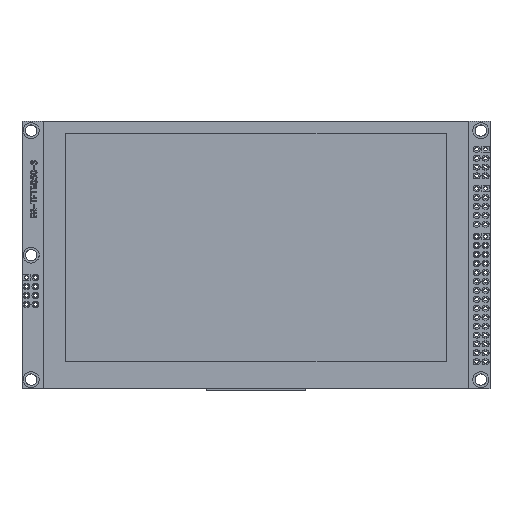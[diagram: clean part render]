
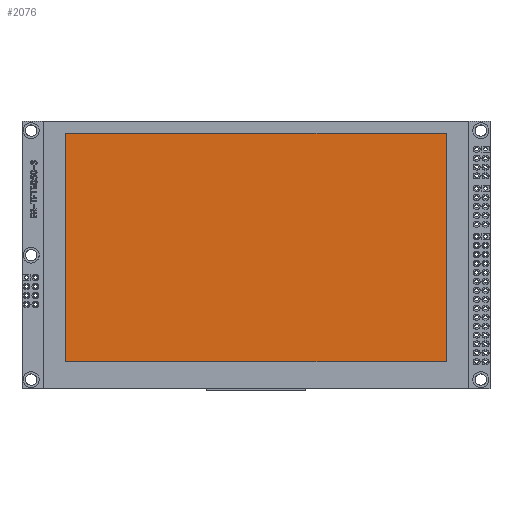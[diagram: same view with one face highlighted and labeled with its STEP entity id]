
A CAD part, top view. The second image highlights one B-rep face of the part: STEP entity #2076.
In plain terms, the highlighted free-form (B-spline) face has degree [1, 1] with [2, 2] control points.
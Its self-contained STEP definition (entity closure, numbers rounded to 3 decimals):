
#157=(GEOMETRIC_REPRESENTATION_CONTEXT(2)PARAMETRIC_REPRESENTATION_CONTEXT()REPRESENTATION_CONTEXT('',''));
#1816=CARTESIAN_POINT('',(12.31,72.425,4.));
#1817=CARTESIAN_POINT('',(120.31,72.425,4.));
#1818=CARTESIAN_POINT('',(12.31,72.425,0.8));
#1819=CARTESIAN_POINT('',(120.31,72.425,0.8));
#1820=B_SPLINE_SURFACE_WITH_KNOTS('',1,1,((#1816,#1817),(#1818,#1819)),.UNSPECIFIED.,.F.,.F.,.U.,(2,2),(2,2),(0.,0.003),(0.012,0.12),.UNSPECIFIED.);
#1846=CARTESIAN_POINT('',(12.31,72.425,4.));
#1847=VERTEX_POINT('',#1846);
#1848=CARTESIAN_POINT('',(12.31,7.625,4.));
#1849=CARTESIAN_POINT('',(12.31,72.425,4.));
#1850=CARTESIAN_POINT('',(12.31,7.625,0.8));
#1851=CARTESIAN_POINT('',(12.31,72.425,0.8));
#1852=B_SPLINE_SURFACE_WITH_KNOTS('',1,1,((#1848,#1849),(#1850,#1851)),.UNSPECIFIED.,.F.,.F.,.U.,(2,2),(2,2),(0.,0.003),(0.008,0.072),.UNSPECIFIED.);
#1869=CARTESIAN_POINT('',(120.31,72.425,4.));
#1870=VERTEX_POINT('',#1869);
#1871=CARTESIAN_POINT('',(12.31,7.625,4.));
#1872=CARTESIAN_POINT('',(12.31,72.425,4.));
#1873=CARTESIAN_POINT('',(120.31,7.625,4.));
#1874=CARTESIAN_POINT('',(120.31,72.425,4.));
#1875=B_SPLINE_SURFACE_WITH_KNOTS('',1,1,((#1871,#1872),(#1873,#1874)),.UNSPECIFIED.,.F.,.F.,.U.,(2,2),(2,2),(0.012,0.12),(0.008,0.072),.UNSPECIFIED.);
#1876=CARTESIAN_POINT('',(0.,0.12));
#1877=CARTESIAN_POINT('',(0.,0.012));
#1878=B_SPLINE_CURVE_WITH_KNOTS('',1,(#1876,#1877),.UNSPECIFIED.,.F.,.F.,(2,2),(-0.12,-0.012),.UNSPECIFIED.);
#1879=DEFINITIONAL_REPRESENTATION('',(#1878),#157);
#1880=PCURVE('',#1820,#1879);
#1881=CARTESIAN_POINT('',(0.12,0.072));
#1882=CARTESIAN_POINT('',(0.012,0.072));
#1883=B_SPLINE_CURVE_WITH_KNOTS('',1,(#1881,#1882),.UNSPECIFIED.,.F.,.F.,(2,2),(-0.12,-0.012),.UNSPECIFIED.);
#1884=DEFINITIONAL_REPRESENTATION('',(#1883),#157);
#1885=PCURVE('',#1875,#1884);
#1886=CARTESIAN_POINT('',(120.31,72.425,4.));
#1887=CARTESIAN_POINT('',(12.31,72.425,4.));
#1888=B_SPLINE_CURVE_WITH_KNOTS('',1,(#1886,#1887),.UNSPECIFIED.,.F.,.F.,(2,2),(-0.12,-0.012),.UNSPECIFIED.);
#1889=INTERSECTION_CURVE('',#1888,(#1880,#1885),.PCURVE_S1.);
#1890=EDGE_CURVE('',#1870,#1847,#1889,.T.);
#1892=CARTESIAN_POINT('',(120.31,7.625,0.8));
#1893=CARTESIAN_POINT('',(120.31,72.425,0.8));
#1894=CARTESIAN_POINT('',(120.31,7.625,4.));
#1895=CARTESIAN_POINT('',(120.31,72.425,4.));
#1896=B_SPLINE_SURFACE_WITH_KNOTS('',1,1,((#1892,#1893),(#1894,#1895)),.UNSPECIFIED.,.F.,.F.,.U.,(2,2),(2,2),(-0.003,0.),(0.008,0.072),.UNSPECIFIED.);
#1934=CARTESIAN_POINT('',(12.31,7.625,4.));
#1935=VERTEX_POINT('',#1934);
#1936=CARTESIAN_POINT('',(12.31,7.625,0.8));
#1937=CARTESIAN_POINT('',(120.31,7.625,0.8));
#1938=CARTESIAN_POINT('',(12.31,7.625,4.));
#1939=CARTESIAN_POINT('',(120.31,7.625,4.));
#1940=B_SPLINE_SURFACE_WITH_KNOTS('',1,1,((#1936,#1937),(#1938,#1939)),.UNSPECIFIED.,.F.,.F.,.U.,(2,2),(2,2),(-0.003,0.),(0.012,0.12),.UNSPECIFIED.);
#1957=CARTESIAN_POINT('',(0.,0.072));
#1958=CARTESIAN_POINT('',(0.,0.008));
#1959=B_SPLINE_CURVE_WITH_KNOTS('',1,(#1957,#1958),.UNSPECIFIED.,.F.,.F.,(2,2),(-0.072,-0.008),.UNSPECIFIED.);
#1960=DEFINITIONAL_REPRESENTATION('',(#1959),#157);
#1961=PCURVE('',#1852,#1960);
#1962=CARTESIAN_POINT('',(0.012,0.072));
#1963=CARTESIAN_POINT('',(0.012,0.008));
#1964=B_SPLINE_CURVE_WITH_KNOTS('',1,(#1962,#1963),.UNSPECIFIED.,.F.,.F.,(2,2),(-0.072,-0.008),.UNSPECIFIED.);
#1965=DEFINITIONAL_REPRESENTATION('',(#1964),#157);
#1966=PCURVE('',#1875,#1965);
#1967=CARTESIAN_POINT('',(12.31,72.425,4.));
#1968=CARTESIAN_POINT('',(12.31,7.625,4.));
#1969=B_SPLINE_CURVE_WITH_KNOTS('',1,(#1967,#1968),.UNSPECIFIED.,.F.,.F.,(2,2),(-0.072,-0.008),.UNSPECIFIED.);
#1970=INTERSECTION_CURVE('',#1969,(#1961,#1966),.PCURVE_S1.);
#1971=EDGE_CURVE('',#1847,#1935,#1970,.T.);
#1995=CARTESIAN_POINT('',(120.31,7.625,4.));
#1996=VERTEX_POINT('',#1995);
#2013=CARTESIAN_POINT('',(0.,0.012));
#2014=CARTESIAN_POINT('',(0.,0.12));
#2015=B_SPLINE_CURVE_WITH_KNOTS('',1,(#2013,#2014),.UNSPECIFIED.,.F.,.F.,(2,2),(0.012,0.12),.UNSPECIFIED.);
#2016=DEFINITIONAL_REPRESENTATION('',(#2015),#157);
#2017=PCURVE('',#1940,#2016);
#2018=CARTESIAN_POINT('',(0.012,0.008));
#2019=CARTESIAN_POINT('',(0.12,0.008));
#2020=B_SPLINE_CURVE_WITH_KNOTS('',1,(#2018,#2019),.UNSPECIFIED.,.F.,.F.,(2,2),(0.012,0.12),.UNSPECIFIED.);
#2021=DEFINITIONAL_REPRESENTATION('',(#2020),#157);
#2022=PCURVE('',#1875,#2021);
#2023=CARTESIAN_POINT('',(12.31,7.625,4.));
#2024=CARTESIAN_POINT('',(120.31,7.625,4.));
#2025=B_SPLINE_CURVE_WITH_KNOTS('',1,(#2023,#2024),.UNSPECIFIED.,.F.,.F.,(2,2),(0.012,0.12),.UNSPECIFIED.);
#2026=INTERSECTION_CURVE('',#2025,(#2017,#2022),.PCURVE_S1.);
#2027=EDGE_CURVE('',#1935,#1996,#2026,.T.);
#2050=CARTESIAN_POINT('',(0.,0.008));
#2051=CARTESIAN_POINT('',(0.,0.072));
#2052=B_SPLINE_CURVE_WITH_KNOTS('',1,(#2050,#2051),.UNSPECIFIED.,.F.,.F.,(2,2),(0.008,0.072),.UNSPECIFIED.);
#2053=DEFINITIONAL_REPRESENTATION('',(#2052),#157);
#2054=PCURVE('',#1896,#2053);
#2055=CARTESIAN_POINT('',(0.12,0.008));
#2056=CARTESIAN_POINT('',(0.12,0.072));
#2057=B_SPLINE_CURVE_WITH_KNOTS('',1,(#2055,#2056),.UNSPECIFIED.,.F.,.F.,(2,2),(0.008,0.072),.UNSPECIFIED.);
#2058=DEFINITIONAL_REPRESENTATION('',(#2057),#157);
#2059=PCURVE('',#1875,#2058);
#2060=CARTESIAN_POINT('',(120.31,7.625,4.));
#2061=CARTESIAN_POINT('',(120.31,72.425,4.));
#2062=B_SPLINE_CURVE_WITH_KNOTS('',1,(#2060,#2061),.UNSPECIFIED.,.F.,.F.,(2,2),(0.008,0.072),.UNSPECIFIED.);
#2063=INTERSECTION_CURVE('',#2062,(#2054,#2059),.PCURVE_S1.);
#2064=EDGE_CURVE('',#1996,#1870,#2063,.T.);
#2070=ORIENTED_EDGE('',*,*,#1890,.T.);
#2071=ORIENTED_EDGE('',*,*,#1971,.T.);
#2072=ORIENTED_EDGE('',*,*,#2027,.T.);
#2073=ORIENTED_EDGE('',*,*,#2064,.T.);
#2074=EDGE_LOOP('',(#2070,#2071,#2072,#2073));
#2075=FACE_BOUND('',#2074,.T.);
#2076=ADVANCED_FACE('',(#2075),#1875,.T.);
